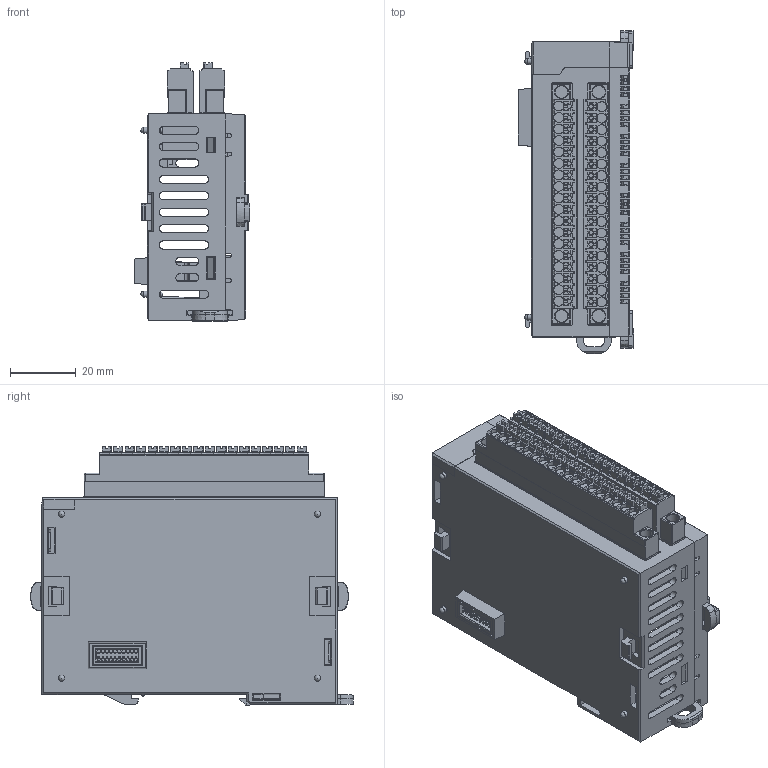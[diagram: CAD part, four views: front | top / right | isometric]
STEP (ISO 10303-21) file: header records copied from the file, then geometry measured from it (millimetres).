
FILE_DESCRIPTION (( 'STEP AP214' ), '1' );
FILE_NAME ('CM3-SP32EDTP, SP32EDCP_目池磐 器窃.STEP', '2025-10-20T03:55:57', ( '' ), ( '' ), 'SwSTEP 2.0', 'SolidWorks 2024', '' );
FILE_SCHEMA (( 'AUTOMOTIVE_DESIGN' ));
Length unit declared in the file: millimetre
Products named in the file (1): CM3-SP32EDTP, SP32EDCP_커넥터 포함
Bounding box: 35.25 x 98.44 x 78.7 mm (x, y, z)
Volume: 72253.1 mm3; surface area: 59864.8 mm2
Topology: 1 solids, 42 shells, 6245 faces, 17773 edges, 11612 vertices
Faces by surface type: plane 5127, cylinder 801, cone 228, bspline 55, sphere 18, torus 16
Full cylindrical faces by diameter (mm): 1 x2, 1.2 x5, 1.5 x2, 1.8 x2, 2 x4, 2.2 x4, 2.3 x4, 2.6 x2
Entity records: 251010 total; most frequent: CARTESIAN_POINT 42301, ORIENTED_EDGE 35352, DIRECTION 30232, EDGE_CURVE 17676, LINE 14312, VECTOR 14312, VERTEX_POINT 11578, AXIS2_PLACEMENT_3D 7960
